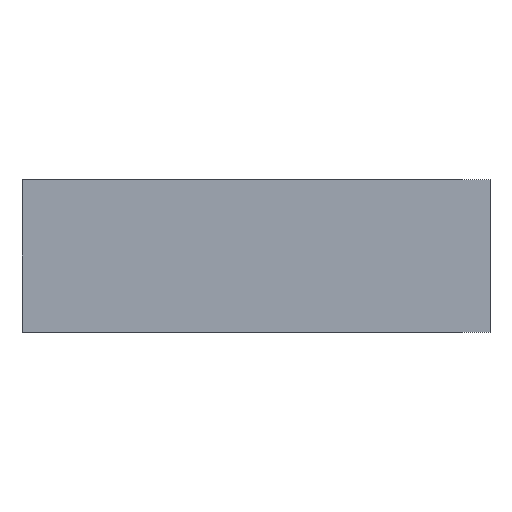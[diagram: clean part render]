
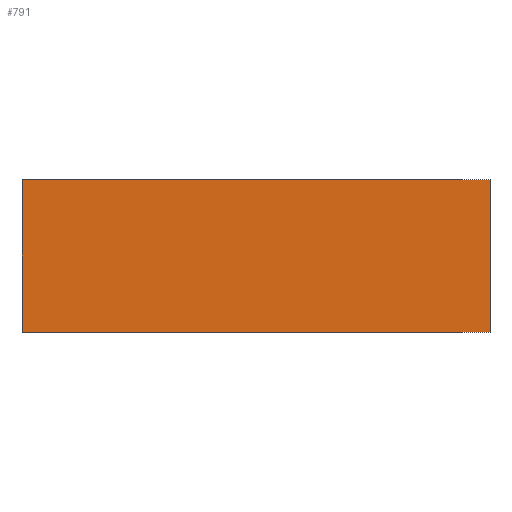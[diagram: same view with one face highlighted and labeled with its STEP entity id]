
A CAD part, front view. The second image highlights one B-rep face of the part: STEP entity #791.
In plain terms, the highlighted planar face has unit normal (0, -1, 0).
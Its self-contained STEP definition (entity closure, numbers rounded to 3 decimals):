
#51 = EDGE_LOOP ( 'NONE', ( #768, #767, #766, #765 ) ) ;
#261 = DIRECTION ( 'NONE',  ( 0., 0., -1. ) ) ;
#289 = CARTESIAN_POINT ( 'NONE',  ( -100., 0., 65. ) ) ;
#301 = DIRECTION ( 'NONE',  ( -1., 0., 0. ) ) ;
#302 = DIRECTION ( 'NONE',  ( 0., 1., 0. ) ) ;
#312 = CARTESIAN_POINT ( 'NONE',  ( -100., 0., 65. ) ) ;
#317 = PLANE ( 'NONE',  #899 ) ;
#351 = DIRECTION ( 'NONE',  ( 1., 0., 0. ) ) ;
#364 = DIRECTION ( 'NONE',  ( 0., 0., -1. ) ) ;
#367 = CARTESIAN_POINT ( 'NONE',  ( 100., 0., 65. ) ) ;
#368 = CARTESIAN_POINT ( 'NONE',  ( -100., 0., 0. ) ) ;
#373 = VERTEX_POINT ( 'NONE', #408 ) ;
#379 = VERTEX_POINT ( 'NONE', #414 ) ;
#408 = CARTESIAN_POINT ( 'NONE',  ( 100., 0., 65. ) ) ;
#414 = CARTESIAN_POINT ( 'NONE',  ( -100., 0., 0. ) ) ;
#426 = CARTESIAN_POINT ( 'NONE',  ( -100., 0., 65. ) ) ;
#460 = DIRECTION ( 'NONE',  ( 1., 0., 0. ) ) ;
#467 = VERTEX_POINT ( 'NONE', #505 ) ;
#470 = VERTEX_POINT ( 'NONE', #504 ) ;
#504 = CARTESIAN_POINT ( 'NONE',  ( 100., 0., 0. ) ) ;
#505 = CARTESIAN_POINT ( 'NONE',  ( -100., 0., 65. ) ) ;
#576 = EDGE_CURVE ( 'NONE', #467, #373, #706, .T. ) ;
#590 = EDGE_CURVE ( 'NONE', #379, #470, #678, .T. ) ;
#596 = EDGE_CURVE ( 'NONE', #373, #470, #666, .T. ) ;
#605 = EDGE_CURVE ( 'NONE', #467, #379, #661, .T. ) ;
#648 = VECTOR ( 'NONE', #261, 1000. ) ;
#661 = LINE ( 'NONE', #289, #648 ) ;
#665 = VECTOR ( 'NONE', #364, 1000. ) ;
#666 = LINE ( 'NONE', #367, #665 ) ;
#677 = VECTOR ( 'NONE', #351, 1000. ) ;
#678 = LINE ( 'NONE', #368, #677 ) ;
#705 = VECTOR ( 'NONE', #460, 1000. ) ;
#706 = LINE ( 'NONE', #426, #705 ) ;
#765 = ORIENTED_EDGE ( 'NONE', *, *, #605, .T. ) ;
#766 = ORIENTED_EDGE ( 'NONE', *, *, #576, .F. ) ;
#767 = ORIENTED_EDGE ( 'NONE', *, *, #596, .F. ) ;
#768 = ORIENTED_EDGE ( 'NONE', *, *, #590, .T. ) ;
#791 = ADVANCED_FACE ( 'NONE', ( #845 ), #317, .F. ) ;
#845 = FACE_OUTER_BOUND ( 'NONE', #51, .T. ) ;
#899 = AXIS2_PLACEMENT_3D ( 'NONE', #312, #302, #301 ) ;
